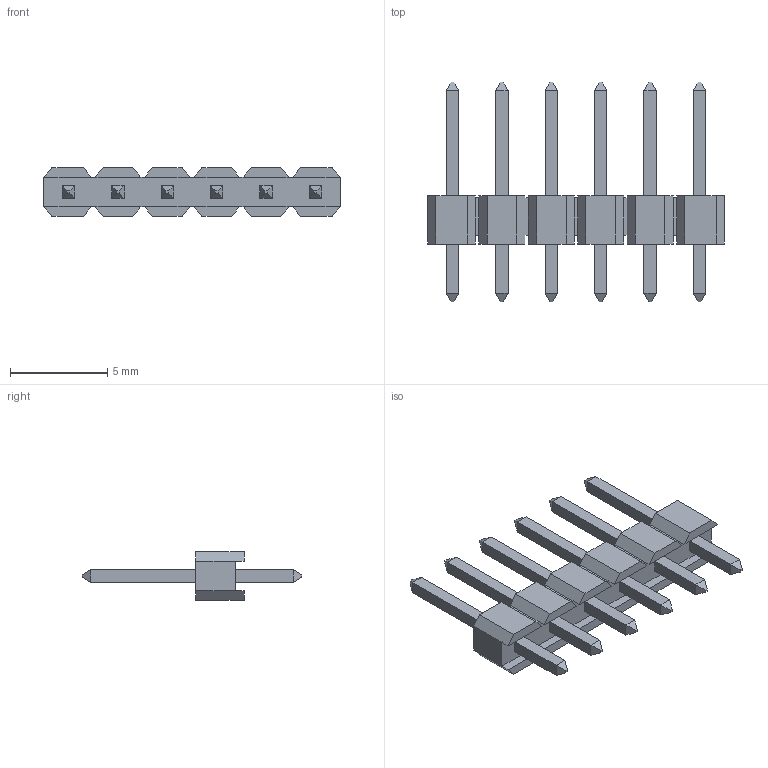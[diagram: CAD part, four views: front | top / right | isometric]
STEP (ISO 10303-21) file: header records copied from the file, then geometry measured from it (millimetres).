
FILE_DESCRIPTION((''),'2;1');
FILE_NAME('878910606','2019-02-06T',('gga'),(''),'PRO/ENGINEER BY PARAMETRIC TECHNOLOGY CORPORATION, 2016010','PRO/ENGINEER BY PARAMETRIC TECHNOLOGY CORPORATION, 2016010','');
FILE_SCHEMA(('CONFIG_CONTROL_DESIGN'));
Length unit declared in the file: millimetre
Products named in the file (1): 878910606
Bounding box: 15.24 x 11.3 x 2.51 mm (x, y, z)
Volume: 97.8 mm3; surface area: 312.7 mm2
Topology: 1 solids, 1 shells, 202 faces, 490 edges, 308 vertices
Faces by surface type: plane 202
Entity records: 5687 total; most frequent: CARTESIAN_POINT 977, ORIENTED_EDGE 944, DIRECTION 908, VECTOR 478, LINE 478, EDGE_CURVE 472, VERTEX_POINT 284, AXIS2_PLACEMENT_3D 215
